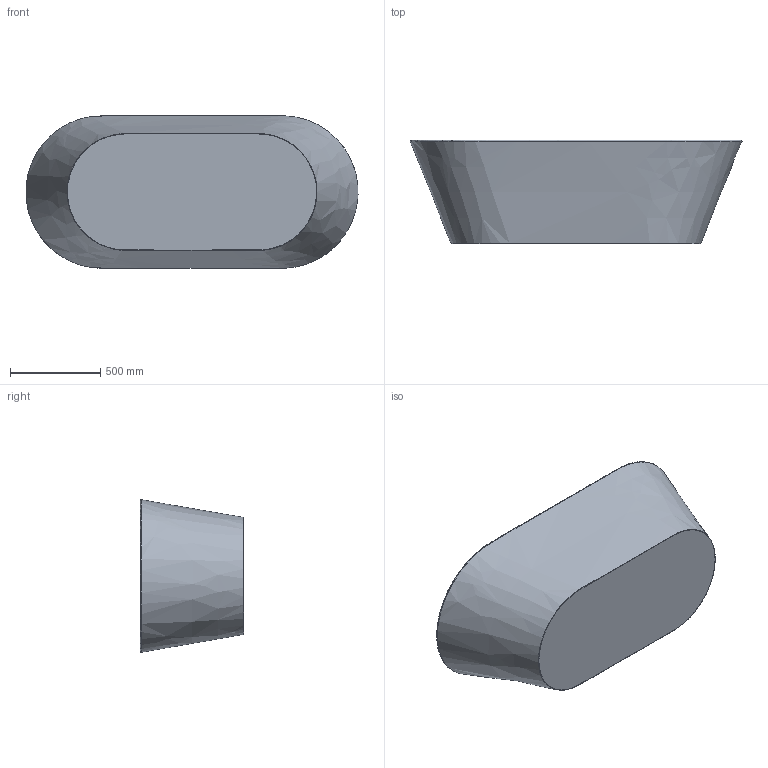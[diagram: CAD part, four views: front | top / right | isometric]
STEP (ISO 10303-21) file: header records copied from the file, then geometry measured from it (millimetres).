
FILE_DESCRIPTION((' '),'2;1');
FILE_NAME( '18514953a22c9dc3.stp', '2022-12-15T08:00:02', (' '), ('--- Datakit www.datakit.com---'), ' Datakit CrossCadWare V2022.3 Jun 15 2022', 'DATAKIT 2022 (c)', ' ');
FILE_SCHEMA(('CONFIG_CONTROL_DESIGN'));
Length unit declared in the file: millimetre
Products named in the file (1): 1851495162efb2c3
Bounding box: 1843.73 x 575 x 847.02 mm (x, y, z)
Volume: 311990253.2 mm3; surface area: 5712529.8 mm2
Topology: 3 solids, 3 shells, 60 faces, 140 edges, 85 vertices
Faces by surface type: torus 14, offset 13, plane 12, bspline 11, cylinder 8, cone 2
Full cylindrical faces by diameter (mm): 35 x1
Entity records: 53177 total; most frequent: CARTESIAN_POINT 52049, ORIENTED_EDGE 244, DIRECTION 170, EDGE_CURVE 122, VERTEX_POINT 82, AXIS2_PLACEMENT_3D 75, EDGE_LOOP 73, B_SPLINE_CURVE_WITH_KNOTS 64
